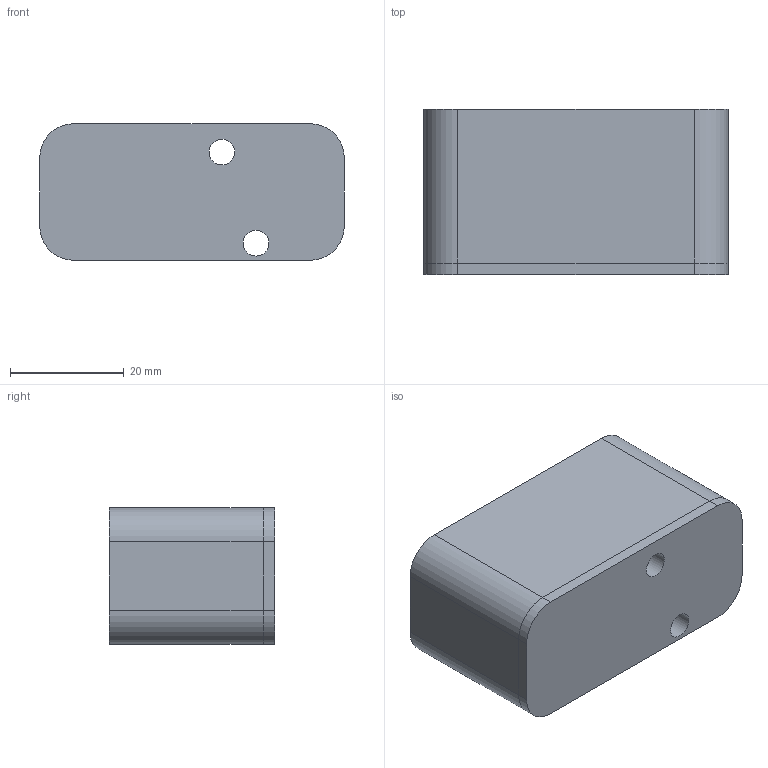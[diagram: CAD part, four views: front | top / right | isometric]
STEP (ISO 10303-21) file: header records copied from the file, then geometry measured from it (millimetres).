
FILE_DESCRIPTION(('FreeCAD Model'),'2;1');
FILE_NAME('Open CASCADE Shape Model','2023-08-13T14:14:42',(''),(''), 'Open CASCADE STEP processor 7.6','FreeCAD','Unknown');
FILE_SCHEMA(('AUTOMOTIVE_DESIGN { 1 0 10303 214 1 1 1 1 }'));
Length unit declared in the file: millimetre
Products named in the file (1): Heizelektronikhalter2
Bounding box: 53.5 x 29 x 24 mm (x, y, z)
Volume: 18530.5 mm3; surface area: 11157.3 mm2
Topology: 1 solids, 1 shells, 42 faces, 110 edges, 70 vertices
Faces by surface type: plane 29, cylinder 13
Full cylindrical faces by diameter (mm): 4.5 x2
Entity records: 1310 total; most frequent: CARTESIAN_POINT 223, ORIENTED_EDGE 220, DIRECTION 218, EDGE_CURVE 110, LINE 88, VECTOR 88, VERTEX_POINT 70, AXIS2_PLACEMENT_3D 65
